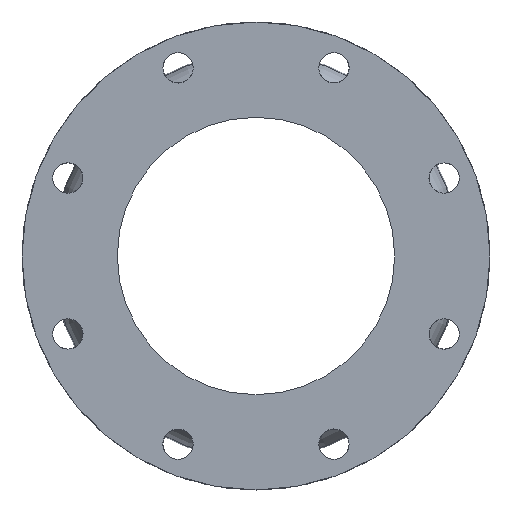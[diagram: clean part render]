
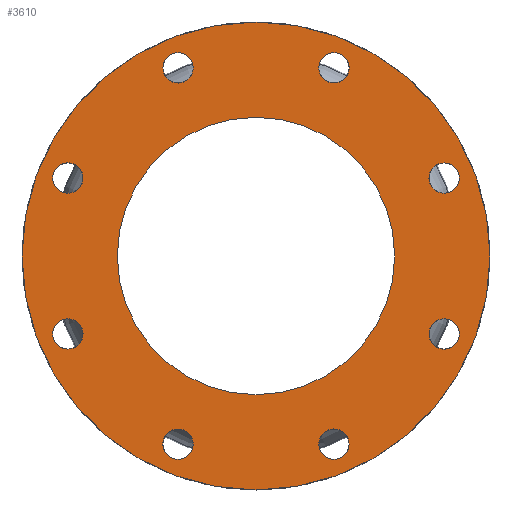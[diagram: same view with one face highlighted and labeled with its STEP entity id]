
A CAD part, left-side view. The second image highlights one B-rep face of the part: STEP entity #3610.
In plain terms, the highlighted planar face has unit normal (-1, 0, 0).
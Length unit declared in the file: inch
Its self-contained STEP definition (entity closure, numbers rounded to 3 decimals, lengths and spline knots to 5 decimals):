
#3351=CARTESIAN_POINT('',(-5.,2.55762,-5.11843));
#3352=VERTEX_POINT('',#3351);
#3353=CARTESIAN_POINT('',(-5.,2.24827,-5.42779));
#3354=DIRECTION('',(1.0,0.0,0.0));
#3355=DIRECTION('',(0.0,-0.707,-0.707));
#3356=AXIS2_PLACEMENT_3D('',#3353,#3354,#3355);
#3357=CIRCLE('',#3356,0.4375);
#3358=EDGE_CURVE('',#3352,#3352,#3357,.T.);
#3379=CARTESIAN_POINT('',(-5.,-1.81077,-5.42779));
#3380=VERTEX_POINT('',#3379);
#3381=CARTESIAN_POINT('',(-5.,-2.24827,-5.42779));
#3382=DIRECTION('',(1.0,0.0,0.0));
#3383=DIRECTION('',(0.0,-1.0,0.0));
#3384=AXIS2_PLACEMENT_3D('',#3381,#3382,#3383);
#3385=CIRCLE('',#3384,0.4375);
#3386=EDGE_CURVE('',#3380,#3380,#3385,.T.);
#3407=CARTESIAN_POINT('',(-5.,-5.11843,-2.55762));
#3408=VERTEX_POINT('',#3407);
#3409=CARTESIAN_POINT('',(-5.,-5.42779,-2.24827));
#3410=DIRECTION('',(1.0,0.0,0.0));
#3411=DIRECTION('',(0.0,-0.707,0.707));
#3412=AXIS2_PLACEMENT_3D('',#3409,#3410,#3411);
#3413=CIRCLE('',#3412,0.4375);
#3414=EDGE_CURVE('',#3408,#3408,#3413,.T.);
#3435=CARTESIAN_POINT('',(-5.,-5.42779,1.81077));
#3436=VERTEX_POINT('',#3435);
#3437=CARTESIAN_POINT('',(-5.,-5.42779,2.24827));
#3438=DIRECTION('',(1.0,0.0,0.0));
#3439=DIRECTION('',(0.0,0.0,1.0));
#3440=AXIS2_PLACEMENT_3D('',#3437,#3438,#3439);
#3441=CIRCLE('',#3440,0.4375);
#3442=EDGE_CURVE('',#3436,#3436,#3441,.T.);
#3463=CARTESIAN_POINT('',(-5.,-2.55762,5.11843));
#3464=VERTEX_POINT('',#3463);
#3465=CARTESIAN_POINT('',(-5.,-2.24827,5.42779));
#3466=DIRECTION('',(1.0,0.0,0.0));
#3467=DIRECTION('',(0.0,0.707,0.707));
#3468=AXIS2_PLACEMENT_3D('',#3465,#3466,#3467);
#3469=CIRCLE('',#3468,0.4375);
#3470=EDGE_CURVE('',#3464,#3464,#3469,.T.);
#3491=CARTESIAN_POINT('',(-5.,1.81077,5.42779));
#3492=VERTEX_POINT('',#3491);
#3493=CARTESIAN_POINT('',(-5.,2.24827,5.42779));
#3494=DIRECTION('',(1.0,0.0,0.0));
#3495=DIRECTION('',(0.0,1.0,0.0));
#3496=AXIS2_PLACEMENT_3D('',#3493,#3494,#3495);
#3497=CIRCLE('',#3496,0.4375);
#3498=EDGE_CURVE('',#3492,#3492,#3497,.T.);
#3519=CARTESIAN_POINT('',(-5.,5.11843,2.55762));
#3520=VERTEX_POINT('',#3519);
#3521=CARTESIAN_POINT('',(-5.,5.42779,2.24827));
#3522=DIRECTION('',(1.0,0.0,0.0));
#3523=DIRECTION('',(0.0,0.707,-0.707));
#3524=AXIS2_PLACEMENT_3D('',#3521,#3522,#3523);
#3525=CIRCLE('',#3524,0.4375);
#3526=EDGE_CURVE('',#3520,#3520,#3525,.T.);
#3547=CARTESIAN_POINT('',(-5.,5.42779,-1.81077));
#3548=VERTEX_POINT('',#3547);
#3549=CARTESIAN_POINT('',(-5.,5.42779,-2.24827));
#3550=DIRECTION('',(1.0,0.0,0.0));
#3551=DIRECTION('',(0.0,0.0,-1.0));
#3552=AXIS2_PLACEMENT_3D('',#3549,#3550,#3551);
#3553=CIRCLE('',#3552,0.4375);
#3554=EDGE_CURVE('',#3548,#3548,#3553,.T.);
#3559=CARTESIAN_POINT('',(-5.,6.6875,0.0));
#3560=DIRECTION('',(-1.0,0.0,0.0));
#3561=DIRECTION('',(0.0,0.0,1.0));
#3562=AXIS2_PLACEMENT_3D('',#3559,#3560,#3561);
#3563=PLANE('',#3562);
#3564=CARTESIAN_POINT('',(-5.,6.75,0.0));
#3565=VERTEX_POINT('',#3564);
#3566=CARTESIAN_POINT('',(-5.,0.0,0.0));
#3567=DIRECTION('',(1.0,0.0,0.0));
#3568=DIRECTION('',(0.0,1.0,0.0));
#3569=AXIS2_PLACEMENT_3D('',#3566,#3567,#3568);
#3570=CIRCLE('',#3569,6.75);
#3571=EDGE_CURVE('',#3565,#3565,#3570,.T.);
#3572=ORIENTED_EDGE('',*,*,#3571,.F.);
#3573=EDGE_LOOP('',(#3572));
#3574=FACE_OUTER_BOUND('',#3573,.T.);
#3575=ORIENTED_EDGE('',*,*,#3358,.T.);
#3576=EDGE_LOOP('',(#3575));
#3577=FACE_BOUND('',#3576,.T.);
#3578=ORIENTED_EDGE('',*,*,#3386,.T.);
#3579=EDGE_LOOP('',(#3578));
#3580=FACE_BOUND('',#3579,.T.);
#3581=ORIENTED_EDGE('',*,*,#3414,.T.);
#3582=EDGE_LOOP('',(#3581));
#3583=FACE_BOUND('',#3582,.T.);
#3584=ORIENTED_EDGE('',*,*,#3442,.T.);
#3585=EDGE_LOOP('',(#3584));
#3586=FACE_BOUND('',#3585,.T.);
#3587=ORIENTED_EDGE('',*,*,#3470,.T.);
#3588=EDGE_LOOP('',(#3587));
#3589=FACE_BOUND('',#3588,.T.);
#3590=ORIENTED_EDGE('',*,*,#3498,.T.);
#3591=EDGE_LOOP('',(#3590));
#3592=FACE_BOUND('',#3591,.T.);
#3593=ORIENTED_EDGE('',*,*,#3526,.T.);
#3594=EDGE_LOOP('',(#3593));
#3595=FACE_BOUND('',#3594,.T.);
#3596=ORIENTED_EDGE('',*,*,#3554,.T.);
#3597=EDGE_LOOP('',(#3596));
#3598=FACE_BOUND('',#3597,.T.);
#3599=CARTESIAN_POINT('',(-5.0,4.0,0.0));
#3600=VERTEX_POINT('',#3599);
#3601=CARTESIAN_POINT('',(-5.0,0.0,0.0));
#3602=DIRECTION('',(1.0,0.0,0.0));
#3603=DIRECTION('',(0.0,1.0,0.0));
#3604=AXIS2_PLACEMENT_3D('',#3601,#3602,#3603);
#3605=CIRCLE('',#3604,4.0);
#3606=EDGE_CURVE('',#3600,#3600,#3605,.T.);
#3607=ORIENTED_EDGE('',*,*,#3606,.T.);
#3608=EDGE_LOOP('',(#3607));
#3609=FACE_BOUND('',#3608,.T.);
#3610=ADVANCED_FACE('',(#3574,#3577,#3580,#3583,#3586,#3589,#3592,#3595,#3598,#3609),#3563,.T.);
